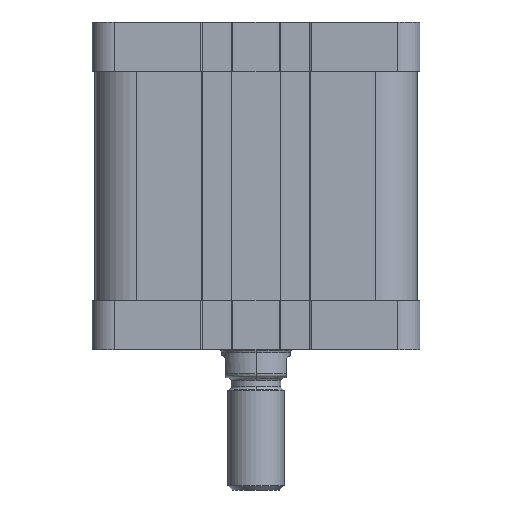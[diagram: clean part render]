
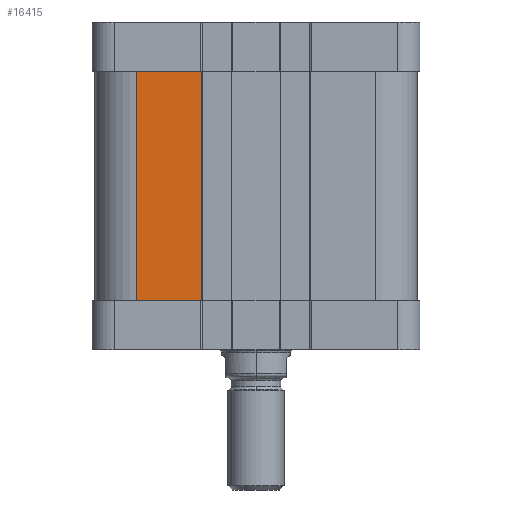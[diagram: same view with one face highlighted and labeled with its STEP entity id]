
A CAD part, left-side view. The second image highlights one B-rep face of the part: STEP entity #16415.
In plain terms, the highlighted planar face has unit normal (-1, 0, 0).
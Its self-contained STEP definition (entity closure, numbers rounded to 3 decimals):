
#9127=CARTESIAN_POINT('',(-31.75,-15.1,-11.6));
#9128=VERTEX_POINT('',#9127);
#9136=CARTESIAN_POINT('',(-31.75,8.0,-11.6));
#9137=VERTEX_POINT('',#9136);
#9138=CARTESIAN_POINT('',(-31.75,8.0,-11.6));
#9139=DIRECTION('',(0.0,-1.0,0.0));
#9140=VECTOR('',#9139,23.1);
#9141=LINE('',#9138,#9140);
#9142=EDGE_CURVE('',#9137,#9128,#9141,.T.);
#11948=CARTESIAN_POINT('',(-31.75,8.0,70.4));
#11949=VERTEX_POINT('',#11948);
#11957=CARTESIAN_POINT('',(-31.75,-15.1,70.4));
#11958=VERTEX_POINT('',#11957);
#11959=CARTESIAN_POINT('',(-31.75,-15.1,70.4));
#11960=DIRECTION('',(0.0,1.0,0.0));
#11961=VECTOR('',#11960,23.1);
#11962=LINE('',#11959,#11961);
#11963=EDGE_CURVE('',#11958,#11949,#11962,.T.);
#16333=CARTESIAN_POINT('',(-31.75,-15.1,70.4));
#16334=DIRECTION('',(0.0,0.0,-1.0));
#16335=VECTOR('',#16334,82.0);
#16336=LINE('',#16333,#16335);
#16337=EDGE_CURVE('',#11958,#9128,#16336,.T.);
#16399=CARTESIAN_POINT('',(-31.75,-77.0,-11.6));
#16400=DIRECTION('',(-1.0,0.0,0.0));
#16401=DIRECTION('',(0.0,0.0,1.0));
#16402=AXIS2_PLACEMENT_3D('',#16399,#16400,#16401);
#16403=PLANE('',#16402);
#16404=ORIENTED_EDGE('',*,*,#16337,.F.);
#16405=ORIENTED_EDGE('',*,*,#11963,.T.);
#16406=CARTESIAN_POINT('',(-31.75,8.0,-11.6));
#16407=DIRECTION('',(0.0,0.0,1.0));
#16408=VECTOR('',#16407,82.0);
#16409=LINE('',#16406,#16408);
#16410=EDGE_CURVE('',#9137,#11949,#16409,.T.);
#16411=ORIENTED_EDGE('',*,*,#16410,.F.);
#16412=ORIENTED_EDGE('',*,*,#9142,.T.);
#16413=EDGE_LOOP('',(#16404,#16405,#16411,#16412));
#16414=FACE_OUTER_BOUND('',#16413,.T.);
#16415=ADVANCED_FACE('',(#16414),#16403,.T.);
